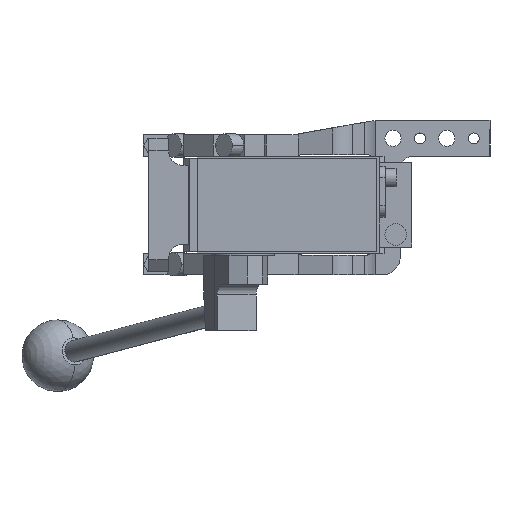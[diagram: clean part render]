
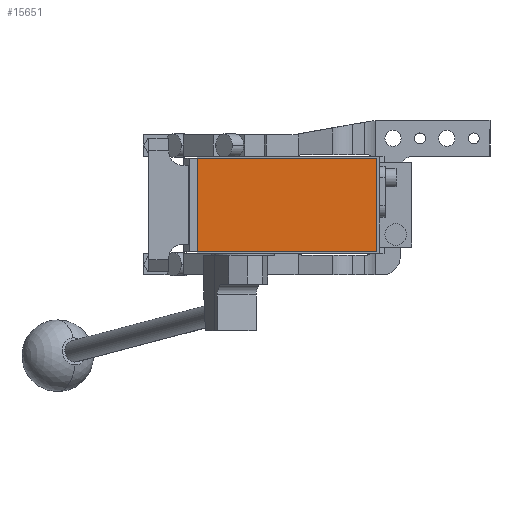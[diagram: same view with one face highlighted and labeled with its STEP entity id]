
A CAD part, front view. The second image highlights one B-rep face of the part: STEP entity #15651.
In plain terms, the highlighted planar face has unit normal (0, -1, 0).
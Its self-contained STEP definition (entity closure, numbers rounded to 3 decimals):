
#410 = EDGE_CURVE ( 'NONE', #13921, #970, #14692, .T. ) ;
#970 = VERTEX_POINT ( 'NONE', #1617 ) ;
#1030 = EDGE_CURVE ( 'NONE', #8846, #13921, #1873, .T. ) ;
#1617 = CARTESIAN_POINT ( 'NONE',  ( 81., -286.5, 26. ) ) ;
#1863 = CARTESIAN_POINT ( 'NONE',  ( 81., -286.5, -26. ) ) ;
#1873 = LINE ( 'NONE', #5843, #5389 ) ;
#2062 = VECTOR ( 'NONE', #6021, 1000. ) ;
#2899 = CARTESIAN_POINT ( 'NONE',  ( -19., -286.5, 26. ) ) ;
#2991 = VERTEX_POINT ( 'NONE', #5755 ) ;
#5214 = EDGE_CURVE ( 'NONE', #2991, #8846, #10345, .T. ) ;
#5389 = VECTOR ( 'NONE', #15568, 1000. ) ;
#5446 = PLANE ( 'NONE',  #6381 ) ;
#5755 = CARTESIAN_POINT ( 'NONE',  ( -19., -286.5, 26. ) ) ;
#5843 = CARTESIAN_POINT ( 'NONE',  ( -19., -286.5, -26. ) ) ;
#6021 = DIRECTION ( 'NONE',  ( -1., 0., 0. ) ) ;
#6381 = AXIS2_PLACEMENT_3D ( 'NONE', #13506, #15658, #10654 ) ;
#6855 = FACE_OUTER_BOUND ( 'NONE', #9665, .T. ) ;
#8124 = VECTOR ( 'NONE', #8845, 1000. ) ;
#8414 = CARTESIAN_POINT ( 'NONE',  ( -19., -286.5, 26. ) ) ;
#8845 = DIRECTION ( 'NONE',  ( 0., 0., -1. ) ) ;
#8846 = VERTEX_POINT ( 'NONE', #14239 ) ;
#9665 = EDGE_LOOP ( 'NONE', ( #12424, #15594, #10988, #16014 ) ) ;
#10345 = LINE ( 'NONE', #2899, #8124 ) ;
#10654 = DIRECTION ( 'NONE',  ( 0., 0., -1. ) ) ;
#10988 = ORIENTED_EDGE ( 'NONE', *, *, #410, .T. ) ;
#12186 = EDGE_CURVE ( 'NONE', #970, #2991, #14678, .T. ) ;
#12261 = VECTOR ( 'NONE', #13142, 1000. ) ;
#12424 = ORIENTED_EDGE ( 'NONE', *, *, #5214, .T. ) ;
#13142 = DIRECTION ( 'NONE',  ( 0., 0., 1. ) ) ;
#13506 = CARTESIAN_POINT ( 'NONE',  ( 0., -286.5, 0. ) ) ;
#13921 = VERTEX_POINT ( 'NONE', #1863 ) ;
#14239 = CARTESIAN_POINT ( 'NONE',  ( -19., -286.5, -26. ) ) ;
#14607 = CARTESIAN_POINT ( 'NONE',  ( 81., -286.5, 26. ) ) ;
#14678 = LINE ( 'NONE', #8414, #2062 ) ;
#14692 = LINE ( 'NONE', #14607, #12261 ) ;
#15568 = DIRECTION ( 'NONE',  ( 1., 0., 0. ) ) ;
#15594 = ORIENTED_EDGE ( 'NONE', *, *, #1030, .T. ) ;
#15651 = ADVANCED_FACE ( 'NONE', ( #6855 ), #5446, .T. ) ;
#15658 = DIRECTION ( 'NONE',  ( 0., -1., 0. ) ) ;
#16014 = ORIENTED_EDGE ( 'NONE', *, *, #12186, .T. ) ;
